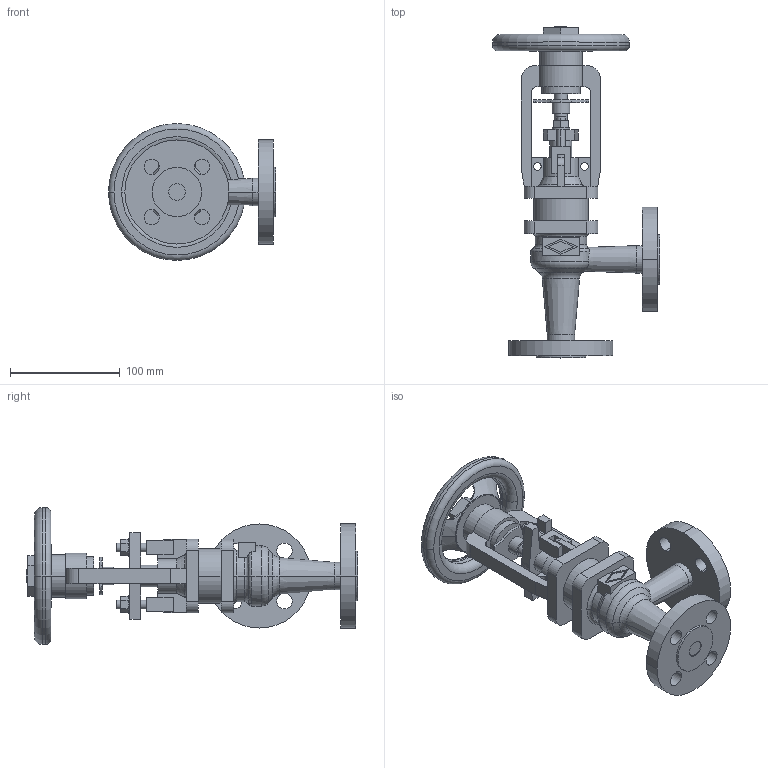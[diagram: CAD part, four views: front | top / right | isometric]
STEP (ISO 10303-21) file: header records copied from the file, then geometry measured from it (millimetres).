
FILE_DESCRIPTION(('OneSpaceDesigner STEP Export'),'2;1');
FILE_NAME('c000004445.stp','2010-05-17T 9:54:36',(''),(''),'OneSpace Designer STEP processor for AP214 (Solid Model)','OneSpace Modeling 15.50B 03-Nov-2007 (C) CoCreate Software GmbH','');
FILE_SCHEMA(('AUTOMOTIVE_DESIGN { 1 0 10303 214 1 1 1 1 }'));
Length unit declared in the file: millimetre
Products named in the file (1): 1
Bounding box: 152.5 x 303 x 125 mm (x, y, z)
Volume: 728035.4 mm3; surface area: 144498.2 mm2
Topology: 1 solids, 1 shells, 295 faces, 778 edges, 508 vertices
Faces by surface type: plane 140, cylinder 113, torus 26, cone 16
Entity records: 11467 total; most frequent: CARTESIAN_POINT 2125, ORIENTED_EDGE 1556, DIRECTION 1306, EDGE_CURVE 778, VERTEX_POINT 508, AXIS2_PLACEMENT_3D 441, VECTOR 424, LINE 424
